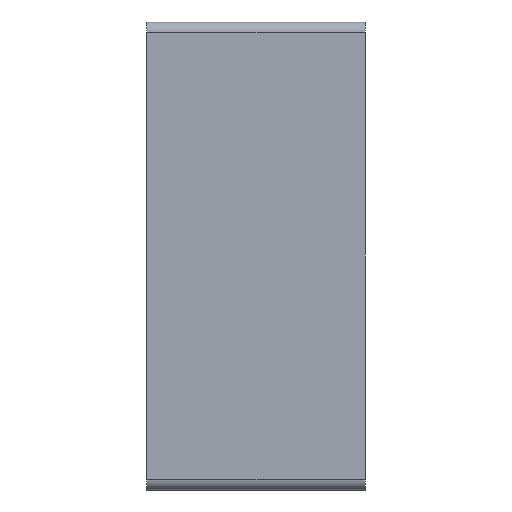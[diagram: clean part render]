
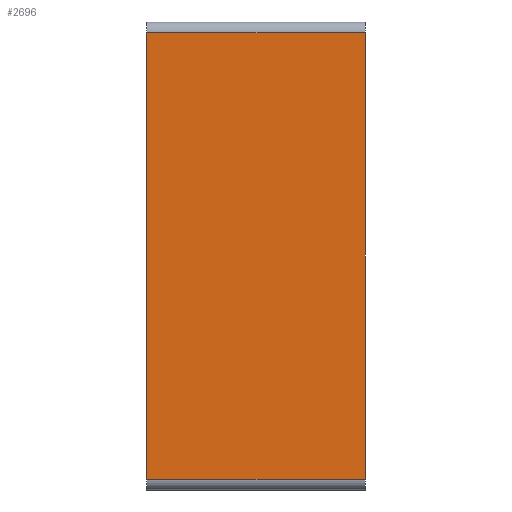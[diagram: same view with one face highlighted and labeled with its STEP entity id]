
A CAD part, left-side view. The second image highlights one B-rep face of the part: STEP entity #2696.
In plain terms, the highlighted planar face has unit normal (-1, 0, 0).
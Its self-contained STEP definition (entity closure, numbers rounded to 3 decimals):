
#112=DIRECTION('',(0.,0.,1.));
#113=VECTOR('',#112,21.);
#114=CARTESIAN_POINT('',(-16.,0.,-10.5));
#115=LINE('',#114,#113);
#356=DIRECTION('',(0.,1.,0.));
#357=VECTOR('',#356,10.25);
#358=CARTESIAN_POINT('',(-16.,0.,-10.5));
#359=LINE('',#358,#357);
#360=DIRECTION('',(0.,-1.,0.));
#361=VECTOR('',#360,10.25);
#362=CARTESIAN_POINT('',(-16.,10.25,10.5));
#363=LINE('',#362,#361);
#738=DIRECTION('',(0.,0.,1.));
#739=VECTOR('',#738,21.);
#740=CARTESIAN_POINT('',(-16.,10.25,-10.5));
#741=LINE('',#740,#739);
#1875=CARTESIAN_POINT('',(-16.,0.,-10.5));
#1876=CARTESIAN_POINT('',(-16.,10.25,-10.5));
#1877=VERTEX_POINT('',#1875);
#1878=VERTEX_POINT('',#1876);
#1891=CARTESIAN_POINT('',(-16.,10.25,10.5));
#1892=CARTESIAN_POINT('',(-16.,0.,10.5));
#1893=VERTEX_POINT('',#1891);
#1894=VERTEX_POINT('',#1892);
#2683=CARTESIAN_POINT('',(-16.,0.,-11.));
#2684=DIRECTION('',(-1.,0.,0.));
#2685=DIRECTION('',(0.,0.,1.));
#2686=AXIS2_PLACEMENT_3D('',#2683,#2684,#2685);
#2687=PLANE('',#2686);
#2689=ORIENTED_EDGE('',*,*,#2688,.T.);
#2691=ORIENTED_EDGE('',*,*,#2690,.T.);
#2692=ORIENTED_EDGE('',*,*,#2674,.T.);
#2693=ORIENTED_EDGE('',*,*,#2202,.F.);
#2694=EDGE_LOOP('',(#2689,#2691,#2692,#2693));
#2695=FACE_OUTER_BOUND('',#2694,.F.);
#2696=ADVANCED_FACE('',(#2695),#2687,.T.);
#2202=EDGE_CURVE('',#1877,#1894,#115,.T.);
#2674=EDGE_CURVE('',#1893,#1894,#363,.T.);
#2688=EDGE_CURVE('',#1877,#1878,#359,.T.);
#2690=EDGE_CURVE('',#1878,#1893,#741,.T.);
